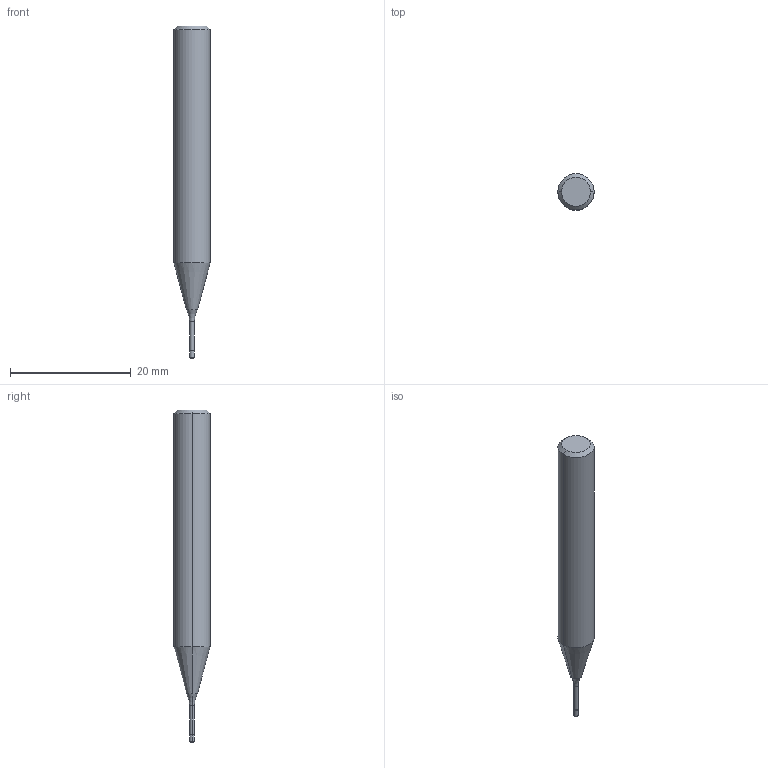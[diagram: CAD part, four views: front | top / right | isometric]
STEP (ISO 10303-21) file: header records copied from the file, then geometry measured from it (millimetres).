
FILE_DESCRIPTION (( 'STEP AP214' ), '1' );
FILE_NAME ('558.080.12_3D-model.step', '2022-02-18T14:46:45', ( '' ), ( '' ), 'SwSTEP 2.0', 'SolidWorks 2020', '' );
FILE_SCHEMA (( 'AUTOMOTIVE_DESIGN' ));
Length unit declared in the file: millimetre
Products named in the file (3): 558.080.12_3D-model; CUT-3D^Baugr64; NOCUT-3D^Baugr64
Assembly tree (2 placements, depth 2):
  558.080.12_3D-model
    CUT-3D^Baugr64
    NOCUT-3D^Baugr64
Bounding box: 6 x 6 x 55 mm (x, y, z)
Volume: 1213.8 mm3; surface area: 883.3 mm2
Topology: 2 solids, 2 shells, 20 faces, 36 edges, 20 vertices
Faces by surface type: cylinder 6, cone 6, torus 4, plane 4
Entity records: 610 total; most frequent: DIRECTION 116, CARTESIAN_POINT 84, ORIENTED_EDGE 72, AXIS2_PLACEMENT_3D 52, EDGE_CURVE 36, CIRCLE 24, VERTEX_POINT 20, ADVANCED_FACE 20
